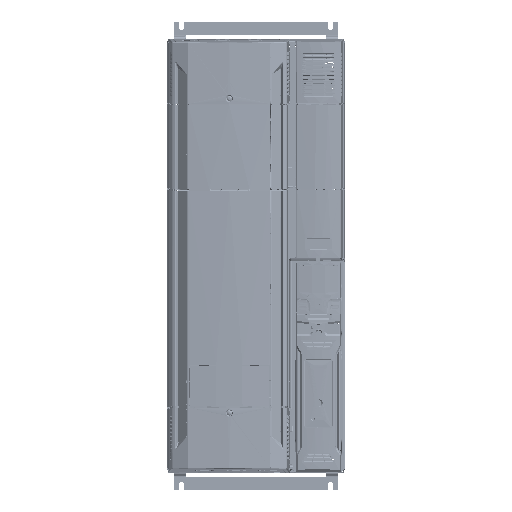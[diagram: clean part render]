
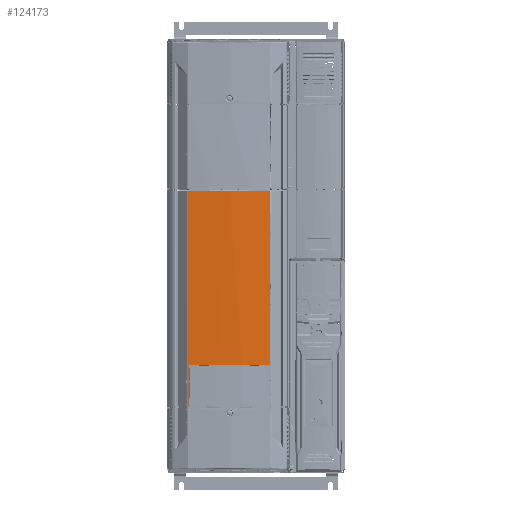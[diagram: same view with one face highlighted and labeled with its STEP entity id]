
A CAD part, top view. The second image highlights one B-rep face of the part: STEP entity #124173.
In plain terms, the highlighted cylindrical face has radius 800 mm (diameter 1600 mm), a partial arc.
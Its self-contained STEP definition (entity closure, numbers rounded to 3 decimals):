
#106737=CARTESIAN_POINT('',(-117.371,228.173,
210.333));
#106738=CARTESIAN_POINT('',(-101.611,228.149,
211.739));
#106739=CARTESIAN_POINT('',(-70.007,228.116,213.617));
#106740=CARTESIAN_POINT('',(-22.503,228.116,
213.617));
#106741=CARTESIAN_POINT('',(9.101,228.149,
211.739));
#106742=CARTESIAN_POINT('',(24.861,228.173,
210.333));
#106744=DIRECTION('',(0.,-1.,0.));
#106745=VECTOR('',#106744,373.338);
#106746=CARTESIAN_POINT('',(24.861,228.173,
210.333));
#106747=LINE('',#106746,#106745);
#106748=CARTESIAN_POINT('',(24.861,-145.165,
210.333));
#106749=CARTESIAN_POINT('',(24.691,-145.165,
210.348));
#106750=CARTESIAN_POINT('',(24.352,-145.164,
210.378));
#106751=CARTESIAN_POINT('',(24.015,-145.163,
210.408));
#106752=CARTESIAN_POINT('',(23.846,-145.163,
210.423));
#106754=DIRECTION('',(0.,1.,0.));
#106755=VECTOR('',#106754,69.374);
#106756=CARTESIAN_POINT('',(23.846,-145.163,
210.423));
#106757=LINE('',#106756,#106755);
#106758=CARTESIAN_POINT('',(23.846,-75.79,
210.423));
#106759=CARTESIAN_POINT('',(23.846,-75.692,
210.423));
#106760=CARTESIAN_POINT('',(23.833,-75.495,
210.424));
#106761=CARTESIAN_POINT('',(23.773,-75.199,
210.429));
#106762=CARTESIAN_POINT('',(23.667,-74.897,
210.438));
#106763=CARTESIAN_POINT('',(23.505,-74.593,
210.453));
#106764=CARTESIAN_POINT('',(23.277,-74.293,
210.473));
#106765=CARTESIAN_POINT('',(22.97,-74.013,
210.499));
#106766=CARTESIAN_POINT('',(22.583,-73.778,
210.533));
#106767=CARTESIAN_POINT('',(22.129,-73.623,
210.572));
#106768=CARTESIAN_POINT('',(21.811,-73.587,
210.599));
#106769=CARTESIAN_POINT('',(21.646,-73.587,
210.613));
#106771=CARTESIAN_POINT('',(-46.255,-73.587,-586.5));
#106772=DIRECTION('',(0.,-1.,0.));
#106773=DIRECTION('',(0.085,0.,0.996));
#106774=AXIS2_PLACEMENT_3D('',#106771,#106772,#106773);
#106776=CARTESIAN_POINT('',(-114.156,-73.587,
210.613));
#106777=CARTESIAN_POINT('',(-114.254,-73.587,
210.605));
#106778=CARTESIAN_POINT('',(-114.45,-73.6,
210.588));
#106779=CARTESIAN_POINT('',(-114.746,-73.66,
210.563));
#106780=CARTESIAN_POINT('',(-115.048,-73.767,
210.537));
#106781=CARTESIAN_POINT('',(-115.352,-73.929,
210.51));
#106782=CARTESIAN_POINT('',(-115.651,-74.157,
210.484));
#106783=CARTESIAN_POINT('',(-115.931,-74.464,
210.46));
#106784=CARTESIAN_POINT('',(-116.166,-74.852,
210.439));
#106785=CARTESIAN_POINT('',(-116.321,-75.306,
210.426));
#106786=CARTESIAN_POINT('',(-116.357,-75.624,
210.423));
#106787=CARTESIAN_POINT('',(-116.357,-75.79,
210.423));
#106789=DIRECTION('',(0.,-1.,0.));
#106790=VECTOR('',#106789,69.374);
#106791=CARTESIAN_POINT('',(-116.357,-75.79,
210.423));
#106792=LINE('',#106791,#106790);
#106793=CARTESIAN_POINT('',(-116.357,-145.164,
210.423));
#106794=CARTESIAN_POINT('',(-116.526,-145.164,
210.408));
#106795=CARTESIAN_POINT('',(-116.864,-145.164,
210.378));
#106796=CARTESIAN_POINT('',(-117.202,-145.165,
210.348));
#106797=CARTESIAN_POINT('',(-117.371,-145.165,
210.333));
#106799=DIRECTION('',(0.,1.,0.));
#106800=VECTOR('',#106799,373.338);
#106801=CARTESIAN_POINT('',(-117.371,-145.165,
210.333));
#106802=LINE('',#106801,#106800);
#121055=CARTESIAN_POINT('',(-116.357,-75.79,
210.423));
#121056=CARTESIAN_POINT('',(-116.357,-145.164,
210.423));
#121057=VERTEX_POINT('',#121055);
#121058=VERTEX_POINT('',#121056);
#121059=VERTEX_POINT('',#106776);
#121060=CARTESIAN_POINT('',(21.646,-73.587,
210.613));
#121061=VERTEX_POINT('',#121060);
#121062=VERTEX_POINT('',#106758);
#121067=CARTESIAN_POINT('',(23.846,-145.163,
210.423));
#121068=VERTEX_POINT('',#121067);
#121074=VERTEX_POINT('',#106748);
#121075=VERTEX_POINT('',#106797);
#121305=VERTEX_POINT('',#106737);
#121306=VERTEX_POINT('',#106742);
#124146=CARTESIAN_POINT('',(-46.255,-249.905,-586.5));
#124147=DIRECTION('',(0.,-1.,0.));
#124148=DIRECTION('',(1.,0.,0.));
#124149=AXIS2_PLACEMENT_3D('',#124146,#124147,#124148);
#124150=CYLINDRICAL_SURFACE('',#124149,800.);
#124152=ORIENTED_EDGE('',*,*,#124151,.T.);
#124154=ORIENTED_EDGE('',*,*,#124153,.T.);
#124156=ORIENTED_EDGE('',*,*,#124155,.T.);
#124158=ORIENTED_EDGE('',*,*,#124157,.T.);
#124160=ORIENTED_EDGE('',*,*,#124159,.T.);
#124162=ORIENTED_EDGE('',*,*,#124161,.T.);
#124164=ORIENTED_EDGE('',*,*,#124163,.T.);
#124166=ORIENTED_EDGE('',*,*,#124165,.T.);
#124168=ORIENTED_EDGE('',*,*,#124167,.T.);
#124170=ORIENTED_EDGE('',*,*,#124169,.T.);
#124171=EDGE_LOOP('',(#124152,#124154,#124156,#124158,#124160,#124162,#124164,
#124166,#124168,#124170));
#124172=FACE_OUTER_BOUND('',#124171,.F.);
#124173=ADVANCED_FACE('',(#124172),#124150,.T.);
#106743=B_SPLINE_CURVE_WITH_KNOTS('',3,(#106737,#106738,#106739,#106740,#106741,
#106742),.UNSPECIFIED.,.F.,.F.,(4,1,1,4),(0.,0.333,
0.667,1.),.UNSPECIFIED.);
#106753=B_SPLINE_CURVE_WITH_KNOTS('',3,(#106748,#106749,#106750,#106751,
#106752),.UNSPECIFIED.,.F.,.F.,(4,1,4),(0.,0.5,1.),.UNSPECIFIED.);
#106770=B_SPLINE_CURVE_WITH_KNOTS('',3,(#106758,#106759,#106760,#106761,#106762,
#106763,#106764,#106765,#106766,#106767,#106768,#106769),.UNSPECIFIED.,.F.,.F.,(
4,1,1,1,1,1,1,1,1,4),(0.,0.111,0.222,
0.333,0.444,0.556,0.667,
0.778,0.889,1.),.UNSPECIFIED.);
#106775=CIRCLE('',#106774,800.);
#106788=B_SPLINE_CURVE_WITH_KNOTS('',3,(#106776,#106777,#106778,#106779,#106780,
#106781,#106782,#106783,#106784,#106785,#106786,#106787),.UNSPECIFIED.,.F.,.F.,(
4,1,1,1,1,1,1,1,1,4),(0.,0.111,0.222,
0.333,0.444,0.556,0.667,
0.778,0.889,1.),.UNSPECIFIED.);
#106798=B_SPLINE_CURVE_WITH_KNOTS('',3,(#106793,#106794,#106795,#106796,
#106797),.UNSPECIFIED.,.F.,.F.,(4,1,4),(0.,0.5,1.),.UNSPECIFIED.);
#124151=EDGE_CURVE('',#121305,#121306,#106743,.T.);
#124153=EDGE_CURVE('',#121306,#121074,#106747,.T.);
#124155=EDGE_CURVE('',#121074,#121068,#106753,.T.);
#124157=EDGE_CURVE('',#121068,#121062,#106757,.T.);
#124159=EDGE_CURVE('',#121062,#121061,#106770,.T.);
#124161=EDGE_CURVE('',#121061,#121059,#106775,.T.);
#124163=EDGE_CURVE('',#121059,#121057,#106788,.T.);
#124165=EDGE_CURVE('',#121057,#121058,#106792,.T.);
#124167=EDGE_CURVE('',#121058,#121075,#106798,.T.);
#124169=EDGE_CURVE('',#121075,#121305,#106802,.T.);
